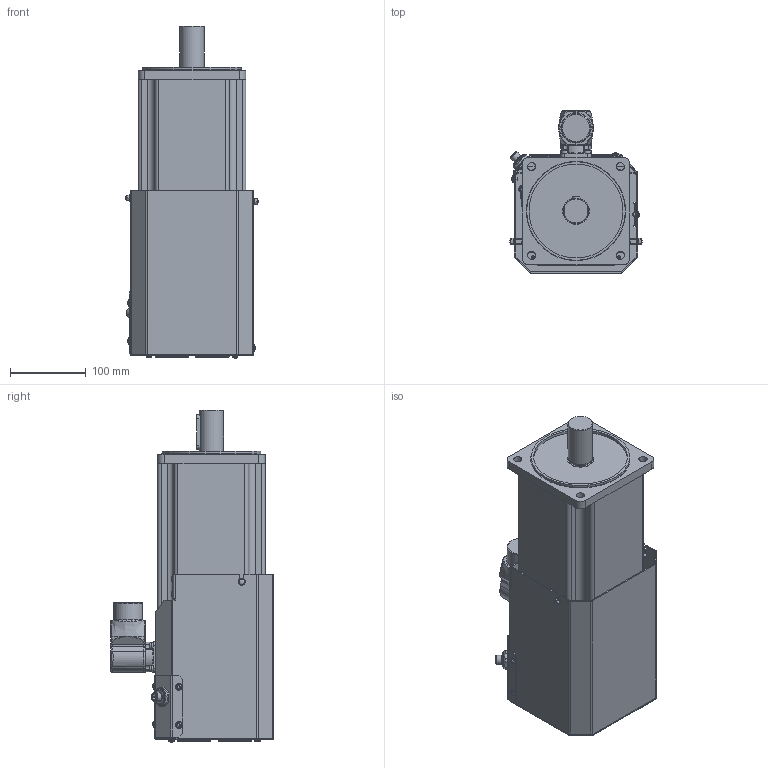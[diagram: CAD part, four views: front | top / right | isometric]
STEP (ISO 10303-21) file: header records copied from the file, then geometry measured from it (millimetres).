
FILE_DESCRIPTION(/* description */ (''),/* implementation_level */ '2;1');
FILE_NAME(/* name */ 'C:\Autodesk Vault\AUTODESK_VAULT\CAD\000-FERTIG Motors\BM140\_Gesamtbaugruppen\vereinfachte_Modelle\Lüfter\BM140-S-B0_VM_Lüfter_RV2016.stp',/* time_stamp */ '2019-05-06T10:11:42+02:00',/* author */ ('JohannesD'),/* organization */ ('FERTIG Motors'),/* preprocessor_version */ 'ST-DEVELOPER v17.2',/* originating_system */ 'Autodesk Inventor 2019',/* authorisation */ '');
FILE_SCHEMA (('AUTOMOTIVE_DESIGN { 1 0 10303 214 3 1 1 }'));
Products named in the file (5): BM140-S-B0_VM_Lüfter_RV2016; Intercontec-CED_271_0020_VM; DIN 6885 - A 10 x 8 x 45; BM140-VM-00; BM140Lüfter-VM
Assembly tree (4 placements, depth 2):
  BM140-S-B0_VM_Lüfter_RV2016
    Intercontec-CED_271_0020_VM
    DIN 6885 - A 10 x 8 x 45
    BM140-VM-00
    BM140Lüfter-VM
Bounding box: 174.51 x 214.12 x 437.25 mm (x, y, z)
Volume: 6226359 mm3; surface area: 580791.9 mm2
Topology: 6 solids, 19 shells, 1705 faces, 4491 edges, 2826 vertices
Faces by surface type: plane 830, cylinder 472, bspline 177, torus 136, cone 60, sphere 30
Full cylindrical faces by diameter (mm): 0.8 x1, 1 x4, 1.8 x4, 2.15 x1, 2.921 x1, 3.242 x8, 3.632 x1, 4 x28, 4.3 x5, 4.5 x8, 4.8 x13, 7 x8, 8 x4, 8.3 x1, 8.85 x9, 9 x4, 10.7 x1, 11 x4, 12 x1, 12.002 x1, 13 x1, 17 x1, 19.1 x1, 20.1 x1, 23 x1, 27 x1, 28.025 x1, 31 x1, 31.4 x1, 32 x1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
Entity records: 57758 total; most frequent: CARTESIAN_POINT 13738, ORIENTED_EDGE 8876, DIRECTION 8852, EDGE_CURVE 4438, AXIS2_PLACEMENT_3D 3272, VERTEX_POINT 2828, LINE 2308, VECTOR 2308
